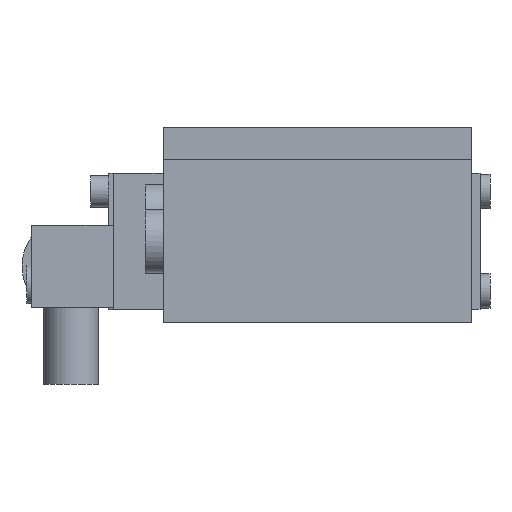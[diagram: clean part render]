
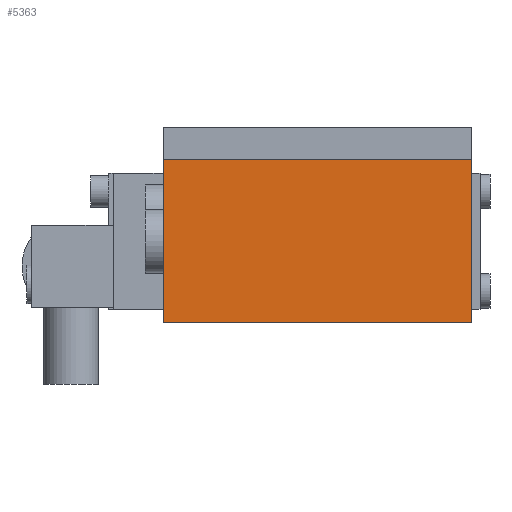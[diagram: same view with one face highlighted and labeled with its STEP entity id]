
A CAD part, front view. The second image highlights one B-rep face of the part: STEP entity #5363.
In plain terms, the highlighted planar face has unit normal (0, -1, 0).
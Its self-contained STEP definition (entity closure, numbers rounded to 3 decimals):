
#5239=CARTESIAN_POINT('',(-34.,-82.0,-21.5));
#5240=VERTEX_POINT('',#5239);
#5241=CARTESIAN_POINT('',(-34.,-82.0,14.5));
#5242=VERTEX_POINT('',#5241);
#5243=CARTESIAN_POINT('',(-34.,-82.0,-21.5));
#5244=DIRECTION('',(0.0,0.0,1.0));
#5245=VECTOR('',#5244,36.);
#5246=LINE('',#5243,#5245);
#5247=EDGE_CURVE('',#5240,#5242,#5246,.T.);
#5281=CARTESIAN_POINT('',(34.,-82.0,14.5));
#5282=VERTEX_POINT('',#5281);
#5283=CARTESIAN_POINT('',(34.,-82.0,14.5));
#5284=DIRECTION('',(-1.0,0.0,0.0));
#5285=VECTOR('',#5284,68.0);
#5286=LINE('',#5283,#5285);
#5287=EDGE_CURVE('',#5282,#5242,#5286,.T.);
#5305=CARTESIAN_POINT('',(34.,-82.0,-21.5));
#5306=VERTEX_POINT('',#5305);
#5307=CARTESIAN_POINT('',(34.,-82.0,14.5));
#5308=DIRECTION('',(0.0,0.0,-1.0));
#5309=VECTOR('',#5308,36.);
#5310=LINE('',#5307,#5309);
#5311=EDGE_CURVE('',#5282,#5306,#5310,.T.);
#5340=CARTESIAN_POINT('',(-34.,-82.0,-21.5));
#5341=DIRECTION('',(1.0,0.0,0.0));
#5342=VECTOR('',#5341,68.);
#5343=LINE('',#5340,#5342);
#5344=EDGE_CURVE('',#5240,#5306,#5343,.T.);
#5352=CARTESIAN_POINT('',(-34.,-82.0,14.5));
#5353=DIRECTION('',(0.0,-1.0,0.0));
#5354=DIRECTION('',(-1.0,0.0,0.0));
#5355=AXIS2_PLACEMENT_3D('',#5352,#5353,#5354);
#5356=PLANE('',#5355);
#5357=ORIENTED_EDGE('',*,*,#5247,.F.);
#5358=ORIENTED_EDGE('',*,*,#5344,.T.);
#5359=ORIENTED_EDGE('',*,*,#5311,.F.);
#5360=ORIENTED_EDGE('',*,*,#5287,.T.);
#5361=EDGE_LOOP('',(#5357,#5358,#5359,#5360));
#5362=FACE_OUTER_BOUND('',#5361,.T.);
#5363=ADVANCED_FACE('',(#5362),#5356,.T.);
